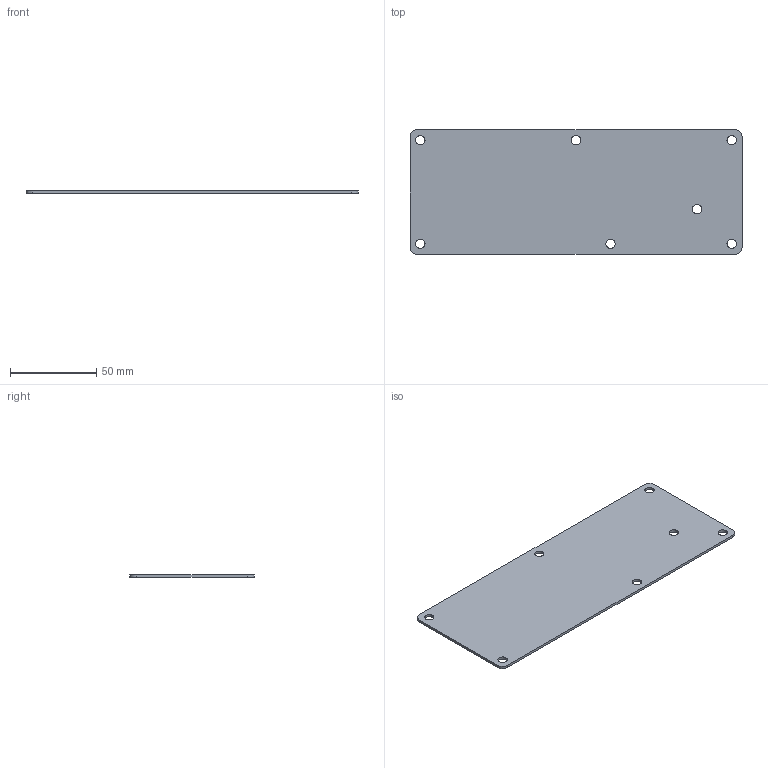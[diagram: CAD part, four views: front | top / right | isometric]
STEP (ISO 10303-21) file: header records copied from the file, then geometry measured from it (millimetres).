
FILE_DESCRIPTION (( 'STEP AP214' ), '1' );
FILE_NAME ('778-859-01_A.step', '2026-06-18T11:07:52', ( '' ), ( '' ), 'SwSTEP 2.0', 'SolidWorks 2025', '' );
FILE_SCHEMA (( 'AUTOMOTIVE_DESIGN' ));
Length unit declared in the file: millimetre
Products named in the file (1): 778-859-01_A
Bounding box: 192 x 72 x 1.5 mm (x, y, z)
Volume: 20474.9 mm3; surface area: 28259.7 mm2
Topology: 1 solids, 1 shells, 24 faces, 66 edges, 44 vertices
Faces by surface type: cylinder 18, plane 6
Entity records: 837 total; most frequent: DIRECTION 152, CARTESIAN_POINT 135, ORIENTED_EDGE 132, EDGE_CURVE 66, AXIS2_PLACEMENT_3D 61, VERTEX_POINT 44, EDGE_LOOP 38, CIRCLE 36
